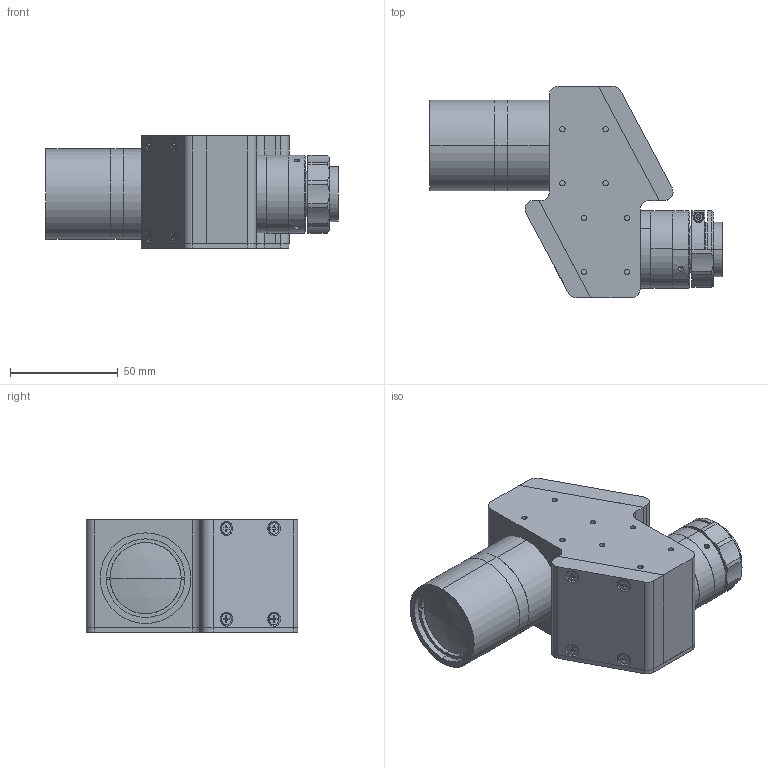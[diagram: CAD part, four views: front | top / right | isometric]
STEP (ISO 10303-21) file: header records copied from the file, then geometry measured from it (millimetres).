
FILE_DESCRIPTION (( 'STEP AP203' ), '1' );
FILE_NAME ('XF-MH05X350.STEP', '2020-08-24T07:15:35', ( 'canrill-02' ), ( '' ), 'SwSTEP 2.0', 'SolidWorks 2014', '' );
FILE_SCHEMA (( 'CONFIG_CONTROL_DESIGN' ));
Length unit declared in the file: millimetre
Products named in the file (1): XF-MH05X350
Bounding box: 135.38 x 98 x 52 mm (x, y, z)
Surface area: 43829.1 mm2 (no closed solid volume)
Topology: 0 solids, 31 shells, 426 faces, 1324 edges, 901 vertices
Faces by surface type: plane 221, cylinder 160, cone 41, sphere 2, torus 2
Entity records: 15039 total; most frequent: CARTESIAN_POINT 2971, DIRECTION 2611, ORIENTED_EDGE 2235, EDGE_CURVE 1322, VERTEX_POINT 901, AXIS2_PLACEMENT_3D 885, VECTOR 841, LINE 841
